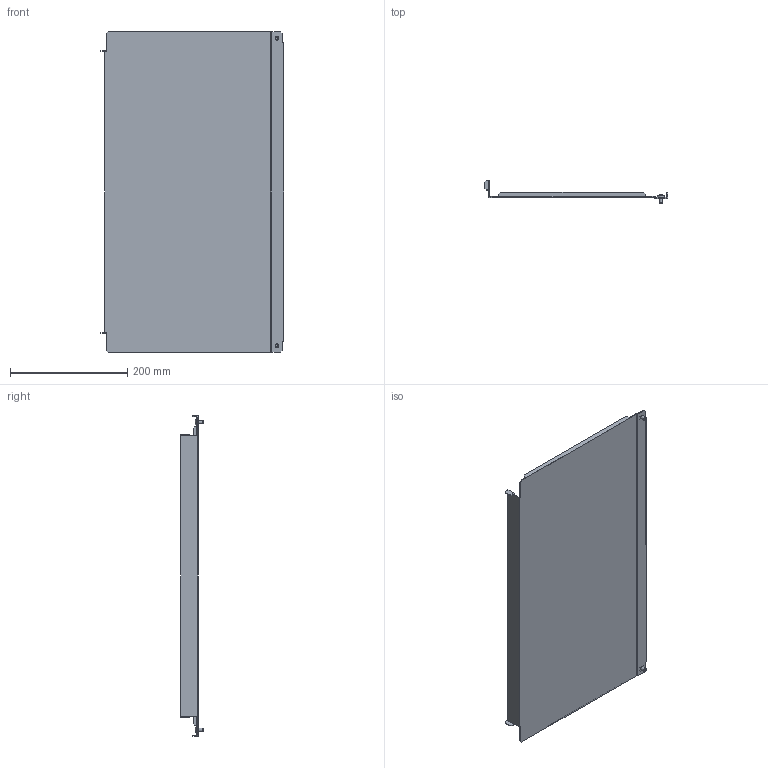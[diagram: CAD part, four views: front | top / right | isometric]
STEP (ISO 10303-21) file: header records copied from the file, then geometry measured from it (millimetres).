
FILE_DESCRIPTION (( 'STEP AP214' ), '1' );
FILE_NAME ('FO-00-PVHC-060 Ïåðåãîðîäêà àïïàðàòíîãî îòñåêà áîêîâàÿ âåðòèêàëüíàÿ ñïëîøíàÿ âûñîòà 600ìì.STEP', '2025-08-18T06:38:42', ( '' ), ( '' ), 'SwSTEP 2.0', 'SolidWorks 2023', '' );
FILE_SCHEMA (( 'AUTOMOTIVE_DESIGN' ));
Length unit declared in the file: millimetre
Products named in the file (1): FO-00-PVHC-060 Перегородка аппаратного отсека боковая вертикальная сплошная высота 600мм
Bounding box: 312.84 x 38.98 x 547 mm (x, y, z)
Volume: 282835.8 mm3; surface area: 379017.4 mm2
Topology: 1 solids, 1 shells, 130 faces, 360 edges, 236 vertices
Faces by surface type: plane 76, cylinder 42, torus 4, cone 4, sphere 4
Entity records: 4207 total; most frequent: CARTESIAN_POINT 861, ORIENTED_EDGE 720, DIRECTION 658, EDGE_CURVE 360, VECTOR 256, LINE 256, VERTEX_POINT 236, AXIS2_PLACEMENT_3D 201
